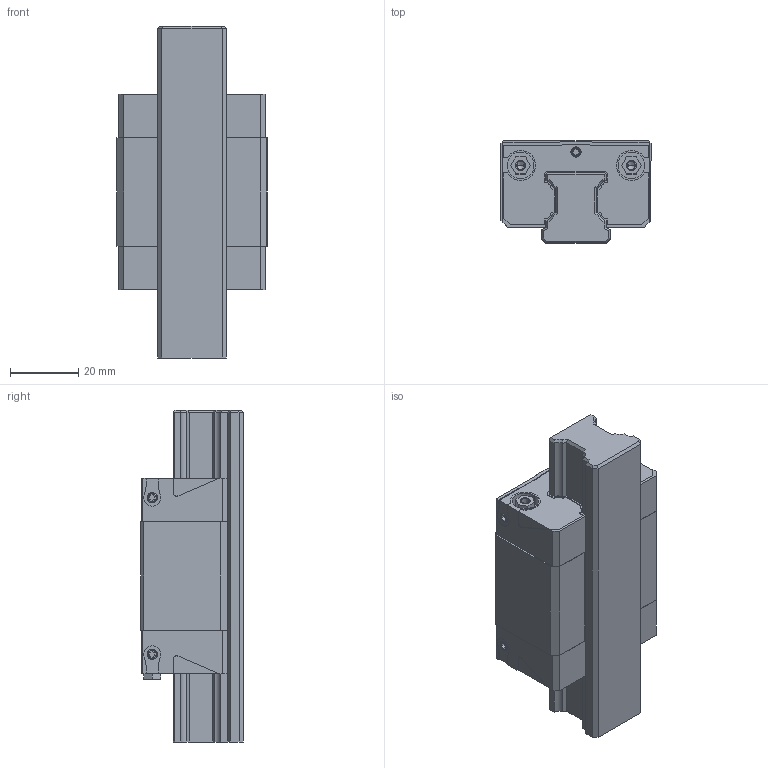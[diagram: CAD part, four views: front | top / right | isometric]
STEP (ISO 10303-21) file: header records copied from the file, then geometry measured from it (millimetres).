
FILE_DESCRIPTION((''),'2;1');
FILE_NAME('KWD_020_SKS_CS__ASM','2021-10-14T07:12:35',('ac91sw'),(''),'CREO PARAMETRIC BY PTC INC, 2020044','CREO PARAMETRIC BY PTC INC, 2020044','');
FILE_SCHEMA(('AUTOMOTIVE_DESIGN { 1 0 10303 214 1 1 1 1 }'));
Length unit declared in the file: millimetre
Products named in the file (7): KWD_020_SKS_CS__SKEL; R201080131; R200180102_Z; R343708901_Z; KWD_020_SKS_CS__PSF; R341702909_Z; KWD_020_SKS_CS__ASM
Assembly tree (11 placements, depth 2):
  KWD_020_SKS_CS__ASM
    KWD_020_SKS_CS__SKEL
    R201080131
    R200180102_Z  x2
    R343708901_Z  x5
    KWD_020_SKS_CS__PSF
    R341702909_Z
Bounding box: 44 x 30 x 97.3 mm (x, y, z)
Volume: 71827.2 mm3; surface area: 27751.3 mm2
Topology: 10 solids, 22 shells, 483 faces, 1250 edges, 799 vertices
Faces by surface type: plane 289, cylinder 138, cone 56
Entity records: 15755 total; most frequent: CARTESIAN_POINT 1857, DIRECTION 1520, ORIENTED_EDGE 1440, PROPERTY_DEFINITION 825, REPRESENTATION 816, PROPERTY_DEFINITION_REPRESENTATION 816, DESCRIPTIVE_REPRESENTATION_ITEM 759, GENERAL_PROPERTY 754
